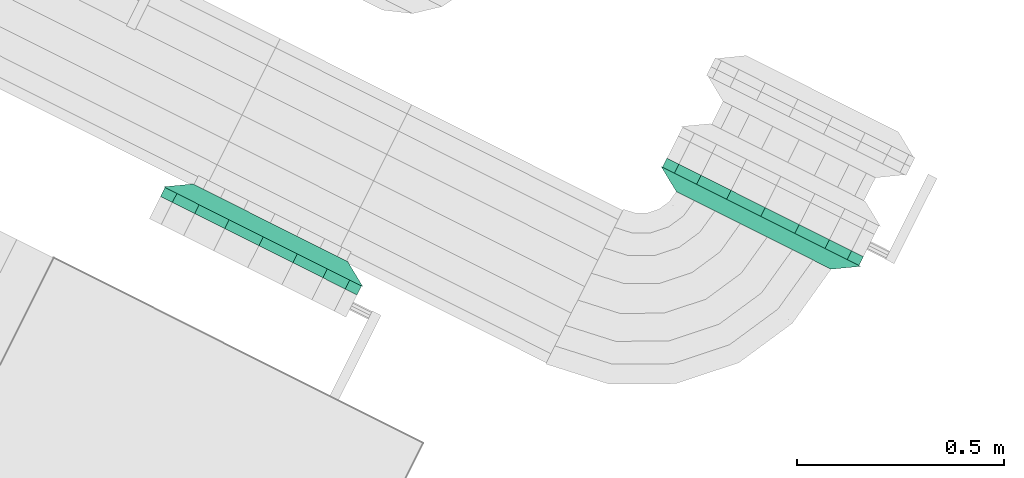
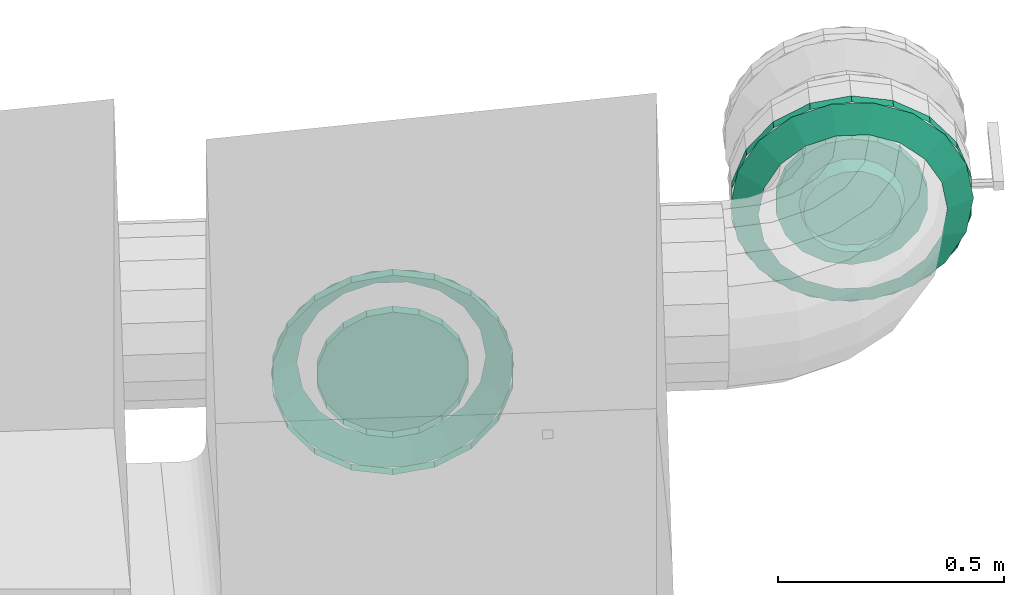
# One storey, part 53 of 152: 2 flow fittings.
"""IFC2X3 building model written with IfcOpenShell, lengths in metres."""

from ifc_helpers import new_model, si_unit, derived_unit, direction, frame, origin, place, context, subcontext, project, spatial, face_set, surface_model, source, transform, mapped, material, type_object, type_shapes, element, save


model = new_model("IFC2X3")

# Units and contexts
model_context = context("Model", 3, precision=5.2338327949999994e-05, world=origin(), true_north=direction((0.0, 1.0)))
body_context = subcontext(model_context, "Body", "Model", "MODEL_VIEW")
ifc_project = project(units=[si_unit("LENGTHUNIT", "METRE"), si_unit("AREAUNIT", "SQUARE_METRE"), si_unit("VOLUMEUNIT", "CUBIC_METRE"), si_unit("MASSUNIT", "GRAM", prefix="KILO"), si_unit("PLANEANGLEUNIT", "RADIAN"), derived_unit("THERMALTRANSMITTANCEUNIT", [(si_unit("MASSUNIT", "GRAM", prefix="KILO"), 1), (si_unit("THERMODYNAMICTEMPERATUREUNIT", "KELVIN"), -1), (si_unit("TIMEUNIT", "SECOND"), -3)])], contexts=[model_context])

# Site, building, storey
site_placement = place(None, frame((0.0, 0.0, 0.0), z_axis=(0.0, 0.0, 1.0), x_axis=(0.8939966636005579, -0.4480736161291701, 0.0)))
site = spatial("IfcSite", under=ifc_project, at=site_placement, Name="Default", CompositionType="ELEMENT")
building_placement = place(site_placement, origin())
building = spatial("IfcBuilding", under=site, at=building_placement, CompositionType="ELEMENT")
storey_placement = place(building_placement, frame((0.0, 0.0, 2.7499999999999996)))
storey = spatial("IfcBuildingStorey", under=building, at=storey_placement, Name="1. Obergeschoss", CompositionType="ELEMENT", Elevation=2.7499999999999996)

# Flow fittings
ifc_material = material(Name="IfcSurfaceStyle #9317")
distribution_element_type_1 = type_object("IfcDistributionElementType", Name="Flansch 301574:Flansch 301574", material=ifc_material)
shared_shape_1 = source(origin(), body_context, "Body", "SurfaceModel", [
    surface_model("IfcFaceBasedSurfaceModel", [(35.004528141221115, 9.000986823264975, 4.729550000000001), (34.94638471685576, 9.000986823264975, 4.719297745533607), (34.94638471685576, 8.976986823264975, 4.719297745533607), (35.004528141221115, 8.976986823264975, 4.729550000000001), (34.8952542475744, 9.000986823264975, 4.689777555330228), (34.8952542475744, 8.976986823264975, 4.689777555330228), (34.85730382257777, 9.000986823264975, 4.644550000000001), (34.85730382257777, 8.976986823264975, 4.644550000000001), (34.83711082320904, 9.000986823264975, 4.589070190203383), (34.83711082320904, 8.976986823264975, 4.589070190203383), (34.83711082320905, 9.000986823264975, 4.530029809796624), (34.83711082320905, 8.976986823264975, 4.530029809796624), (34.85730382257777, 9.000986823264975, 4.474550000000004), (34.85730382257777, 8.976986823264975, 4.474550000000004), (34.8952542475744, 9.000986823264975, 4.429322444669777), (34.8952542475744, 8.976986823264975, 4.429322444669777), (34.94638471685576, 9.000986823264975, 4.399802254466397), (34.94638471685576, 8.976986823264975, 4.399802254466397), (35.004528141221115, 9.000986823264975, 4.389550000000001), (35.004528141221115, 8.976986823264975, 4.389550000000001), (35.06267156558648, 9.000986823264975, 4.399802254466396), (35.06267156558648, 8.976986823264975, 4.399802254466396), (35.11380203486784, 9.000986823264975, 4.429322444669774), (35.11380203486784, 8.976986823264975, 4.429322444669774), (35.151752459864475, 9.000986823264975, 4.47455), (35.151752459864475, 8.976986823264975, 4.47455), (35.17194545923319, 9.000986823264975, 4.530029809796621), (35.17194545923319, 8.976986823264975, 4.530029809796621), (35.17194545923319, 9.000986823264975, 4.589070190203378), (35.17194545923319, 8.976986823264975, 4.589070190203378), (35.151752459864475, 9.000986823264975, 4.644549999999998), (35.151752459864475, 8.976986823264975, 4.644549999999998), (35.11380203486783, 9.000986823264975, 4.689777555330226), (35.11380203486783, 8.976986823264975, 4.689777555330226), (35.06267156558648, 9.000986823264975, 4.719297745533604), (35.06267156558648, 8.976986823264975, 4.719297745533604), (35.004528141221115, 8.976986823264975, 4.559550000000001), (35.122028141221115, 8.976986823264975, 4.559549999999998), (35.114942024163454, 8.976986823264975, 4.599737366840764), (35.10747146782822, 8.938986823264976, 4.597018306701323), (35.11407814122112, 8.938986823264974, 4.55955), (35.094538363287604, 8.976986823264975, 4.635077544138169), (35.08844830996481, 8.938986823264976, 4.629967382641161), (35.063278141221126, 8.976986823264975, 4.661307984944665), (35.059303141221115, 8.938986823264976, 4.654423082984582), (35.02493180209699, 8.976986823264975, 4.675264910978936), (35.02355129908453, 8.938986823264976, 4.667435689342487), (34.984124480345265, 8.976986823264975, 4.675264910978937), (34.98550498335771, 8.938986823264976, 4.667435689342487), (34.94577814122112, 8.976986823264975, 4.661307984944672), (34.94975314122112, 8.938986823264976, 4.654423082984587), (34.91451791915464, 8.976986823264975, 4.635077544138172), (34.920607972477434, 8.938986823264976, 4.629967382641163), (34.894114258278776, 8.976986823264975, 4.59973736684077), (34.901584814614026, 8.938986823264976, 4.597018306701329), (34.88702814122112, 8.976986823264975, 4.559550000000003), (34.89497814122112, 8.938986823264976, 4.559550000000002), (34.89411425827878, 8.976986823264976, 4.5193626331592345), (34.90158481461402, 8.938986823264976, 4.522081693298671), (34.91451791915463, 8.976986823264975, 4.484022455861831), (34.92060797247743, 8.938986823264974, 4.48913261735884), (34.945778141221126, 8.976986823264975, 4.4577920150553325), (34.94975314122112, 8.938986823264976, 4.464676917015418), (34.98412448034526, 8.976986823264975, 4.443835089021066), (34.98550498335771, 8.938986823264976, 4.4516643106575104), (35.02493180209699, 8.976986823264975, 4.443835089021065), (35.02355129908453, 8.938986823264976, 4.45166431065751), (35.063278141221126, 8.976986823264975, 4.457792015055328), (35.059303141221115, 8.938986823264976, 4.464676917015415), (35.094538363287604, 8.976986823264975, 4.484022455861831), (35.088448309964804, 8.938986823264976, 4.489132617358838), (35.114942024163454, 8.976986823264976, 4.51936263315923), (35.107471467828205, 8.938986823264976, 4.522081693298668), (35.004528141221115, 9.000986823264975, 4.829549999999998), (34.9121827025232, 9.000986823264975, 4.813267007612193), (34.9121827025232, 8.976986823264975, 4.813267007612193), (35.004528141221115, 8.976986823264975, 4.829549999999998), (34.83097548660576, 9.000986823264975, 4.766381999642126), (34.83097548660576, 8.976986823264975, 4.766381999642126), (34.770701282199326, 9.000986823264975, 4.694550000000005), (34.770701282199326, 8.976986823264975, 4.694550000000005), (34.73863004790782, 9.000986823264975, 4.6064350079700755), (34.73863004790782, 8.976986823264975, 4.6064350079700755), (34.73863004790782, 9.000986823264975, 4.512664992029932), (34.73863004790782, 8.976986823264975, 4.512664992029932), (34.770701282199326, 9.000986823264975, 4.4245500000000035), (34.770701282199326, 8.976986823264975, 4.4245500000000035), (34.83097548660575, 9.000986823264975, 4.352718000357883), (34.83097548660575, 8.976986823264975, 4.352718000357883), (34.91218270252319, 9.000986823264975, 4.305832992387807), (34.91218270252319, 8.976986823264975, 4.305832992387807), (35.004528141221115, 9.000986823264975, 4.28955), (35.004528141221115, 8.976986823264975, 4.28955), (35.09687357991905, 9.000986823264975, 4.3058329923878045), (35.09687357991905, 8.976986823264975, 4.3058329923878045), (35.178080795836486, 9.000986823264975, 4.352718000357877), (35.178080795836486, 8.976986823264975, 4.352718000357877), (35.23835500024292, 9.000986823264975, 4.424549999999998), (35.23835500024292, 8.976986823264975, 4.424549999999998), (35.27042623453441, 9.000986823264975, 4.512664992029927), (35.27042623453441, 8.976986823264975, 4.512664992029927), (35.27042623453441, 9.000986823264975, 4.606435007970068), (35.27042623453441, 8.976986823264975, 4.606435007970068), (35.23835500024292, 9.000986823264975, 4.694549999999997), (35.23835500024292, 8.976986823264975, 4.694549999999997), (35.17808079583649, 9.000986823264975, 4.76638199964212), (35.17808079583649, 8.976986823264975, 4.76638199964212), (35.096873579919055, 9.000986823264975, 4.813267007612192), (35.096873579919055, 8.976986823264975, 4.813267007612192), (35.274528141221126, 8.976986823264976, 4.559549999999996), (35.25824514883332, 8.976986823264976, 4.651895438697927), (35.20144072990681, 8.938986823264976, 4.631220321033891), (35.214078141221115, 8.938986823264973, 4.559549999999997), (35.21136014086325, 8.976986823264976, 4.733102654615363), (35.16505275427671, 8.938986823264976, 4.694246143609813), (35.13952814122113, 8.976986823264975, 4.793376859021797), (35.109303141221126, 8.938986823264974, 4.741025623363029), (35.0514131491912, 8.976986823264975, 4.8254480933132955), (35.04091611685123, 8.938986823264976, 4.765916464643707), (34.95764313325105, 8.976986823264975, 4.8254480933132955), (34.96814016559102, 8.938986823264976, 4.765916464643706), (34.869528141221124, 8.976986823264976, 4.793376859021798), (34.899753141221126, 8.938986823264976, 4.741025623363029), (34.797696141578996, 8.976986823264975, 4.733102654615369), (34.844003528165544, 8.938986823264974, 4.694246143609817), (34.75081113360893, 8.976986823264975, 4.651895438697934), (34.80761555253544, 8.938986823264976, 4.631220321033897), (34.73452814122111, 8.976986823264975, 4.559550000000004), (34.79497814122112, 8.938986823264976, 4.559550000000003), (34.75081113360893, 8.976986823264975, 4.467204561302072), (34.80761555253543, 8.938986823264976, 4.487879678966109), (34.797696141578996, 8.976986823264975, 4.385997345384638), (34.84400352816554, 8.938986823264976, 4.42485385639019), (34.86952814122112, 8.976986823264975, 4.325723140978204), (34.89975314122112, 8.938986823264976, 4.378074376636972), (34.95764313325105, 8.976986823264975, 4.293651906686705), (34.96814016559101, 8.938986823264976, 4.353183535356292), (35.051413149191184, 8.976986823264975, 4.293651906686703), (35.04091611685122, 8.938986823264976, 4.3531835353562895), (35.13952814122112, 8.976986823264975, 4.3257231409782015), (35.10930314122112, 8.938986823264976, 4.37807437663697), (35.21136014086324, 8.976986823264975, 4.385997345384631), (35.1650527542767, 8.938986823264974, 4.424853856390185), (35.25824514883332, 8.976986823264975, 4.467204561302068), (35.20144072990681, 8.938986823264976, 4.487879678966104)], [face_set([[[0, 1, 2, 3]], [[1, 4, 5, 2]], [[4, 6, 7, 5]], [[6, 8, 9, 7]], [[8, 10, 11, 9]], [[10, 12, 13, 11]], [[12, 14, 15, 13]], [[14, 16, 17, 15]], [[16, 18, 19, 17]], [[18, 20, 21, 19]], [[20, 22, 23, 21]], [[22, 24, 25, 23]], [[24, 26, 27, 25]], [[26, 28, 29, 27]], [[28, 30, 31, 29]], [[30, 32, 33, 31]], [[32, 34, 35, 33]], [[34, 0, 3, 35]], [[36, 35, 3]], [[36, 33, 35]], [[36, 31, 33]], [[36, 29, 31]], [[36, 27, 29]], [[36, 25, 27]], [[36, 23, 25]], [[36, 21, 23]], [[36, 19, 21]], [[36, 17, 19]], [[36, 15, 17]], [[36, 13, 15]], [[36, 11, 13]], [[36, 9, 11]], [[36, 7, 9]], [[36, 5, 7]], [[36, 2, 5]], [[36, 3, 2]], [[37, 38, 39, 40]], [[38, 41, 42, 39]], [[41, 43, 44, 42]], [[43, 45, 46, 44]], [[45, 47, 48, 46]], [[47, 49, 50, 48]], [[49, 51, 52, 50]], [[51, 53, 54, 52]], [[53, 55, 56, 54]], [[55, 57, 58, 56]], [[57, 59, 60, 58]], [[59, 61, 62, 60]], [[61, 63, 64, 62]], [[63, 65, 66, 64]], [[65, 67, 68, 66]], [[67, 69, 70, 68]], [[69, 71, 72, 70]], [[71, 37, 40, 72]], [[73, 74, 75, 76]], [[74, 77, 78, 75]], [[77, 79, 80, 78]], [[79, 81, 82, 80]], [[81, 83, 84, 82]], [[83, 85, 86, 84]], [[85, 87, 88, 86]], [[87, 89, 90, 88]], [[89, 91, 92, 90]], [[91, 93, 94, 92]], [[93, 95, 96, 94]], [[95, 97, 98, 96]], [[97, 99, 100, 98]], [[99, 101, 102, 100]], [[101, 103, 104, 102]], [[103, 105, 106, 104]], [[105, 107, 108, 106]], [[107, 73, 76, 108]], [[109, 110, 111, 112]], [[110, 113, 114, 111]], [[113, 115, 116, 114]], [[115, 117, 118, 116]], [[117, 119, 120, 118]], [[119, 121, 122, 120]], [[121, 123, 124, 122]], [[123, 125, 126, 124]], [[125, 127, 128, 126]], [[127, 129, 130, 128]], [[129, 131, 132, 130]], [[131, 133, 134, 132]], [[133, 135, 136, 134]], [[135, 137, 138, 136]], [[137, 139, 140, 138]], [[139, 141, 142, 140]], [[141, 143, 144, 142]], [[143, 109, 112, 144]]])]),
])
type_shapes(distribution_element_type_1, [shared_shape_1])
flow_fitting_1_placement = place(storey_placement, frame((0.0, 0.0, -2.7499999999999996)))
element("IfcFlowFitting", 1, at=flow_fitting_1_placement, inside=storey, type_object=distribution_element_type_1, material=ifc_material, Name="Flansch", ObjectType="Flansch", context=body_context, shape_type="MappedRepresentation", body=[
    mapped(shared_shape_1, transform((0.0, 0.0, 0.0), scale=1.0)),
])
distribution_element_type_2 = type_object("IfcDistributionElementType", Name="Flansch 613585:Flansch 613585", material=ifc_material)
shared_shape_2 = source(origin(), body_context, "Body", "SurfaceModel", [
    surface_model("IfcFaceBasedSurfaceModel", [(34.05982278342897, 8.431237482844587, 4.559550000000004), (34.05321611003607, 8.431237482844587, 4.597018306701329), (34.06068666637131, 8.393237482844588, 4.599737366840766), (34.067772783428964, 8.393237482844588, 4.55955), (34.034192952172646, 8.431237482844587, 4.629967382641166), (34.040283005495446, 8.39323748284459, 4.635077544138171), (34.00504778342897, 8.43123748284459, 4.654423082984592), (34.00902278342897, 8.393237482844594, 4.661307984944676), (33.96929594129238, 8.431237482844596, 4.667435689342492), (33.97067644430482, 8.393237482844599, 4.675264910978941), (33.931249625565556, 8.431237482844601, 4.6674356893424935), (33.9298691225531, 8.393237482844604, 4.675264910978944), (33.89549778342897, 8.431237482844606, 4.654423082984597), (33.89152278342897, 8.393237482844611, 4.661307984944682), (33.86635261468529, 8.431237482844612, 4.629967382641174), (33.86026256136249, 8.393237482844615, 4.63507754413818), (33.84732945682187, 8.431237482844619, 4.597018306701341), (33.83985890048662, 8.393237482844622, 4.599737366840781), (33.840722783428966, 8.431237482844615, 4.559550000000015), (33.832772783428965, 8.393237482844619, 4.559550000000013), (33.84732945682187, 8.431237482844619, 4.522081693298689), (33.83985890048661, 8.393237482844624, 4.519362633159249), (33.86635261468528, 8.431237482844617, 4.489132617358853), (33.86026256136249, 8.39323748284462, 4.484022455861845), (33.89549778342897, 8.431237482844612, 4.464676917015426), (33.89152278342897, 8.393237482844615, 4.457792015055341), (33.93124962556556, 8.431237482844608, 4.451664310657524), (33.9298691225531, 8.393237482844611, 4.443835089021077), (33.96929594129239, 8.431237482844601, 4.451664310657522), (33.97067644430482, 8.393237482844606, 4.443835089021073), (34.00504778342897, 8.431237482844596, 4.464676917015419), (34.00902278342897, 8.393237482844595, 4.457792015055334), (34.03419295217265, 8.43123748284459, 4.489132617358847), (34.040283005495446, 8.393237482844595, 4.4840224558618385), (34.05321611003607, 8.43123748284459, 4.522081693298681), (34.06068666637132, 8.39323748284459, 4.519362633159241), (33.950272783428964, 8.393237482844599, 4.729550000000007), (33.89212935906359, 8.39323748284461, 4.719297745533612), (33.89212935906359, 8.369237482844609, 4.719297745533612), (33.95027278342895, 8.3692374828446, 4.729550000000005), (33.84099888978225, 8.393237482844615, 4.68977755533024), (33.84099888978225, 8.369237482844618, 4.689777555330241), (33.80304846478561, 8.393237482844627, 4.644550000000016), (33.80304846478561, 8.369237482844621, 4.644550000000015), (33.78285546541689, 8.393237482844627, 4.589070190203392), (33.78285546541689, 8.369237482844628, 4.589070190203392), (33.78285546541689, 8.393237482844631, 4.530029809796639), (33.78285546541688, 8.36923748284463, 4.5300298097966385), (33.803048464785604, 8.393237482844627, 4.474550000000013), (33.803048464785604, 8.369237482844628, 4.474550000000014), (33.840998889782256, 8.393237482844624, 4.42932244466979), (33.840998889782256, 8.369237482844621, 4.42932244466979), (33.89212935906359, 8.393237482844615, 4.399802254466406), (33.89212935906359, 8.369237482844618, 4.399802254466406), (33.950272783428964, 8.39323748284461, 4.389550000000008), (33.950272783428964, 8.369237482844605, 4.389550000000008), (34.00841620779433, 8.393237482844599, 4.399802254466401), (34.008416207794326, 8.3692374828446, 4.3998022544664), (34.05954667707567, 8.39323748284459, 4.429322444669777), (34.059546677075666, 8.369237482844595, 4.429322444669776), (34.097497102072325, 8.393237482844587, 4.47455), (34.097497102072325, 8.369237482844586, 4.47455), (34.11769010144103, 8.39323748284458, 4.530029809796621), (34.11769010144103, 8.36923748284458, 4.53002980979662), (34.11769010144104, 8.39323748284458, 4.589070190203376), (34.11769010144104, 8.369237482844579, 4.589070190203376), (34.09749710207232, 8.393237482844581, 4.64455), (34.09749710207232, 8.36923748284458, 4.644549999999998), (34.05954667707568, 8.393237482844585, 4.689777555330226), (34.05954667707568, 8.369237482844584, 4.689777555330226), (34.00841620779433, 8.39323748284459, 4.7192977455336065), (34.008416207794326, 8.369237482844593, 4.719297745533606), (33.950272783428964, 8.393237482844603, 4.559550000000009), (34.15982278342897, 8.431237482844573, 4.559549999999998), (34.147185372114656, 8.431237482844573, 4.63122032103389), (34.20398979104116, 8.393237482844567, 4.651895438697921), (34.22027278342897, 8.393237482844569, 4.559549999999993), (34.11079739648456, 8.431237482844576, 4.694246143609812), (34.15710478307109, 8.393237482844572, 4.733102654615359), (34.055047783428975, 8.431237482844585, 4.741025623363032), (34.08527278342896, 8.393237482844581, 4.793376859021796), (33.98666075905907, 8.43123748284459, 4.765916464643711), (33.99715779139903, 8.39323748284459, 4.825448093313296), (33.913884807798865, 8.431237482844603, 4.7659164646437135), (33.90338777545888, 8.393237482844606, 4.825448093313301), (33.84549778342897, 8.431237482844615, 4.741025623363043), (33.815272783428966, 8.393237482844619, 4.793376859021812), (33.789748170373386, 8.431237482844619, 4.694246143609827), (33.74344078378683, 8.393237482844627, 4.73310265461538), (33.75336019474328, 8.431237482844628, 4.631220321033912), (33.69655577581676, 8.39323748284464, 4.651895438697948), (33.740722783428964, 8.431237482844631, 4.55955000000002), (33.68027278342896, 8.393237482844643, 4.559550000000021), (33.75336019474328, 8.431237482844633, 4.487879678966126), (33.69655577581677, 8.393237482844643, 4.46720456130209), (33.789748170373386, 8.43123748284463, 4.424853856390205), (33.74344078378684, 8.39323748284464, 4.385997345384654), (33.84549778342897, 8.431237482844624, 4.378074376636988), (33.81527278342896, 8.39323748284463, 4.325723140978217), (33.913884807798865, 8.431237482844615, 4.353183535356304), (33.9033877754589, 8.393237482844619, 4.2936519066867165), (33.98666075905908, 8.431237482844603, 4.3531835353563), (33.99715779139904, 8.393237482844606, 4.293651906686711), (34.05504778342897, 8.431237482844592, 4.378074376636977), (34.08527278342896, 8.39323748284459, 4.325723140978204), (34.11079739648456, 8.431237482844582, 4.424853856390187), (34.15710478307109, 8.39323748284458, 4.385997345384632), (34.14718537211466, 8.43123748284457, 4.487879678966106), (34.20398979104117, 8.393237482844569, 4.467204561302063), (33.950272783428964, 8.393237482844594, 4.829550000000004), (33.85792734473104, 8.393237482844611, 4.813267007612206), (33.857927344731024, 8.36923748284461, 4.813267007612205), (33.950272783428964, 8.369237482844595, 4.829550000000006), (33.776720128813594, 8.393237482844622, 4.7663819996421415), (33.77672012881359, 8.369237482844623, 4.7663819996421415), (33.716445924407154, 8.393237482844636, 4.69455000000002), (33.716445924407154, 8.369237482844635, 4.69455000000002), (33.68437469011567, 8.39323748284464, 4.606435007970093), (33.68437469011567, 8.369237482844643, 4.606435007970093), (33.68437469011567, 8.393237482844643, 4.51266499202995), (33.68437469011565, 8.369237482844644, 4.51266499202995), (33.71644592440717, 8.39323748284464, 4.424550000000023), (33.71644592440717, 8.36923748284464, 4.424550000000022), (33.7767201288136, 8.393237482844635, 4.352718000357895), (33.7767201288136, 8.369237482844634, 4.3527180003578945), (33.85792734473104, 8.393237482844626, 4.3058329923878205), (33.85792734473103, 8.369237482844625, 4.30583299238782), (33.950272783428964, 8.39323748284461, 4.289550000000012), (33.95027278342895, 8.369237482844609, 4.289550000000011), (34.0426182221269, 8.393237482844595, 4.305832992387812), (34.0426182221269, 8.369237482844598, 4.305832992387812), (34.123825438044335, 8.393237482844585, 4.352718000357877), (34.123825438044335, 8.369237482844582, 4.352718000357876), (34.18409964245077, 8.393237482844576, 4.4245499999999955), (34.18409964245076, 8.369237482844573, 4.4245499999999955), (34.21617087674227, 8.393237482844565, 4.512664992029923), (34.21617087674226, 8.369237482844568, 4.512664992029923), (34.216170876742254, 8.393237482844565, 4.606435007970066), (34.216170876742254, 8.369237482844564, 4.606435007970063), (34.18409964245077, 8.393237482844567, 4.694549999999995), (34.18409964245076, 8.369237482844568, 4.694549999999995), (34.123825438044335, 8.393237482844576, 4.766381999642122), (34.12382543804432, 8.369237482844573, 4.766381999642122), (34.04261822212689, 8.393237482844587, 4.813267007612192), (34.04261822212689, 8.369237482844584, 4.813267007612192)], [face_set([[[0, 1, 2, 3]], [[1, 4, 5, 2]], [[4, 6, 7, 5]], [[6, 8, 9, 7]], [[8, 10, 11, 9]], [[10, 12, 13, 11]], [[12, 14, 15, 13]], [[14, 16, 17, 15]], [[16, 18, 19, 17]], [[18, 20, 21, 19]], [[20, 22, 23, 21]], [[22, 24, 25, 23]], [[24, 26, 27, 25]], [[26, 28, 29, 27]], [[28, 30, 31, 29]], [[30, 32, 33, 31]], [[32, 34, 35, 33]], [[34, 0, 3, 35]], [[36, 37, 38, 39]], [[37, 40, 41, 38]], [[40, 42, 43, 41]], [[42, 44, 45, 43]], [[44, 46, 47, 45]], [[46, 48, 49, 47]], [[48, 50, 51, 49]], [[50, 52, 53, 51]], [[52, 54, 55, 53]], [[54, 56, 57, 55]], [[56, 58, 59, 57]], [[58, 60, 61, 59]], [[60, 62, 63, 61]], [[62, 64, 65, 63]], [[64, 66, 67, 65]], [[66, 68, 69, 67]], [[68, 70, 71, 69]], [[70, 36, 39, 71]], [[72, 37, 36]], [[72, 40, 37]], [[72, 42, 40]], [[72, 44, 42]], [[72, 46, 44]], [[72, 48, 46]], [[72, 50, 48]], [[72, 52, 50]], [[72, 54, 52]], [[72, 56, 54]], [[72, 58, 56]], [[72, 60, 58]], [[72, 62, 60]], [[72, 64, 62]], [[72, 66, 64]], [[72, 68, 66]], [[72, 70, 68]], [[72, 36, 70]], [[73, 74, 75, 76]], [[74, 77, 78, 75]], [[77, 79, 80, 78]], [[79, 81, 82, 80]], [[81, 83, 84, 82]], [[83, 85, 86, 84]], [[85, 87, 88, 86]], [[87, 89, 90, 88]], [[89, 91, 92, 90]], [[91, 93, 94, 92]], [[93, 95, 96, 94]], [[95, 97, 98, 96]], [[97, 99, 100, 98]], [[99, 101, 102, 100]], [[101, 103, 104, 102]], [[103, 105, 106, 104]], [[105, 107, 108, 106]], [[107, 73, 76, 108]], [[109, 110, 111, 112]], [[110, 113, 114, 111]], [[113, 115, 116, 114]], [[115, 117, 118, 116]], [[117, 119, 120, 118]], [[119, 121, 122, 120]], [[121, 123, 124, 122]], [[123, 125, 126, 124]], [[125, 127, 128, 126]], [[127, 129, 130, 128]], [[129, 131, 132, 130]], [[131, 133, 134, 132]], [[133, 135, 136, 134]], [[135, 137, 138, 136]], [[137, 139, 140, 138]], [[139, 141, 142, 140]], [[141, 143, 144, 142]], [[143, 109, 112, 144]]])]),
])
type_shapes(distribution_element_type_2, [shared_shape_2])
flow_fitting_2_placement = place(storey_placement, frame((0.0, 0.0, -2.7499999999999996)))
element("IfcFlowFitting", 2, at=flow_fitting_2_placement, inside=storey, type_object=distribution_element_type_2, material=ifc_material, Name="Flansch", ObjectType="Flansch", context=body_context, shape_type="MappedRepresentation", body=[
    mapped(shared_shape_2, transform((0.0, 0.0, 0.0), scale=1.0)),
])

save(model, "model.ifc")
